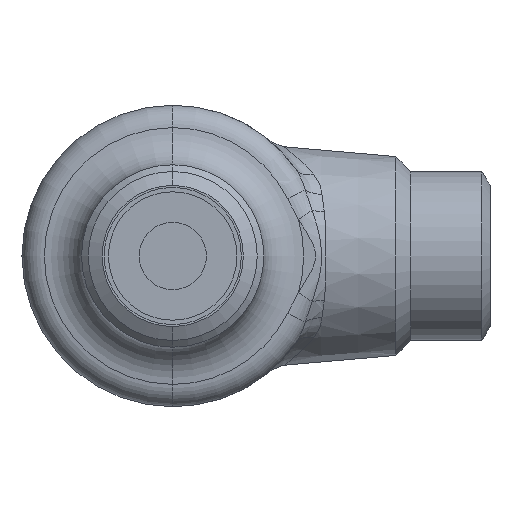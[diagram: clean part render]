
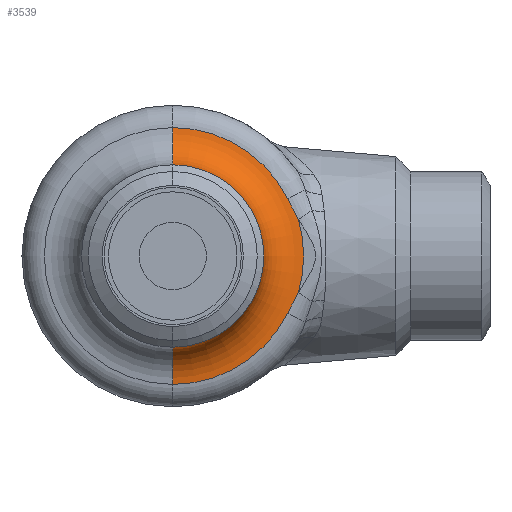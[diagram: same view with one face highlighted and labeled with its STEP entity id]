
A CAD part, front view. The second image highlights one B-rep face of the part: STEP entity #3539.
In plain terms, the highlighted toroidal (fillet/blend) face has major radius 16.5 mm and minor radius 5 mm.
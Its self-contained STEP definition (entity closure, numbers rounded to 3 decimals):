
#35 = EDGE_CURVE ( 'NONE', #893, #4777, #1113, .T. ) ;
#16701 = VERTEX_POINT ( 'NONE', #1847 ) ;
#392 = ORIENTED_EDGE ( 'NONE', *, *, #35, .T. ) ;
#536 = VERTEX_POINT ( 'NONE', #1731 ) ;
#753 = EDGE_CURVE ( 'NONE', #3899, #536, #8795, .T. ) ;
#893 = VERTEX_POINT ( 'NONE', #8918 ) ;
#1113 = B_SPLINE_CURVE_WITH_KNOTS ( 'NONE', 3,
 ( #1114, #1115, #1116, #1117 ),
 .UNSPECIFIED., .F., .F.,
 ( 4, 4 ),
 ( 0., 0.003 ),
 .UNSPECIFIED. ) ;
#1114 = CARTESIAN_POINT ( 'NONE',  ( 14.484, -52.01, -7.229 ) ) ;
#1115 = CARTESIAN_POINT ( 'NONE',  ( 14.925, -52.01, -6.344 ) ) ;
#1116 = CARTESIAN_POINT ( 'NONE',  ( 15.397, -52., -5.474 ) ) ;
#1117 = CARTESIAN_POINT ( 'NONE',  ( 15.848, -52., -4.594 ) ) ;
#1177 = EDGE_CURVE ( 'NONE', #3899, #893, #9077, .T. ) ;
#1248 = EDGE_CURVE ( 'NONE', #8909, #16701, #9118, .T. ) ;
#1731 = CARTESIAN_POINT ( 'NONE',  ( 0., -57., -11.5 ) ) ;
#1847 = CARTESIAN_POINT ( 'NONE',  ( 0., -52.01, 16.187 ) ) ;
#1855 = ORIENTED_EDGE ( 'NONE', *, *, #1177, .T. ) ;
#18248 = ORIENTED_EDGE ( 'NONE', *, *, #8668, .T. ) ;
#18675 = VERTEX_POINT ( 'NONE', #14722 ) ;
#18744 = ORIENTED_EDGE ( 'NONE', *, *, #5214, .F. ) ;
#2801 = ORIENTED_EDGE ( 'NONE', *, *, #753, .F. ) ;
#3214 = EDGE_CURVE ( 'NONE', #536, #18675, #12251, .T. ) ;
#3305 = EDGE_LOOP ( 'NONE', ( #2801, #1855, #392, #18744, #18248, #8009, #7512, #7006 ) ) ;
#3539 = ADVANCED_FACE ( 'NONE', ( #12477 ), #12478, .F. ) ;
#3899 = VERTEX_POINT ( 'NONE', #13092 ) ;
#4777 = VERTEX_POINT ( 'NONE', #14586 ) ;
#5001 = VERTEX_POINT ( 'NONE', #14856 ) ;
#5214 = EDGE_CURVE ( 'NONE', #5001, #4777, #15095, .T. ) ;
#7006 = ORIENTED_EDGE ( 'NONE', *, *, #3214, .F. ) ;
#7512 = ORIENTED_EDGE ( 'NONE', *, *, #8434, .T. ) ;
#8009 = ORIENTED_EDGE ( 'NONE', *, *, #1248, .T. ) ;
#8434 = EDGE_CURVE ( 'NONE', #16701, #18675, #12801, .T. ) ;
#8668 = EDGE_CURVE ( 'NONE', #5001, #8909, #13218, .T. ) ;
#8795 = CIRCLE ( 'NONE', #8796, 5. ) ;
#8796 = AXIS2_PLACEMENT_3D ( 'NONE', #8799, #8800, #8801 ) ;
#8799 = CARTESIAN_POINT ( 'NONE',  ( 0., -57., -16.5 ) ) ;
#8800 = DIRECTION ( 'NONE',  ( 1., 0., 0. ) ) ;
#8801 = DIRECTION ( 'NONE',  ( 0., 0., -1. ) ) ;
#8909 = VERTEX_POINT ( 'NONE', #13787 ) ;
#8918 = CARTESIAN_POINT ( 'NONE',  ( 14.484, -52.01, -7.229 ) ) ;
#9077 = CIRCLE ( 'NONE', #9078, 16.188 ) ;
#9078 = AXIS2_PLACEMENT_3D ( 'NONE', #9079, #9080, #9081 ) ;
#9079 = CARTESIAN_POINT ( 'NONE',  ( 0., -52.01, 0. ) ) ;
#9080 = DIRECTION ( 'NONE',  ( 0., -1., 0. ) ) ;
#9081 = DIRECTION ( 'NONE',  ( 0., 0., -1. ) ) ;
#9118 = CIRCLE ( 'NONE', #9119, 16.188 ) ;
#9119 = AXIS2_PLACEMENT_3D ( 'NONE', #9120, #9121, #9122 ) ;
#9120 = CARTESIAN_POINT ( 'NONE',  ( 0., -52.01, 0. ) ) ;
#9121 = DIRECTION ( 'NONE',  ( 0., -1., 0. ) ) ;
#9122 = DIRECTION ( 'NONE',  ( 0., 0., -1. ) ) ;
#12251 = CIRCLE ( 'NONE', #12252, 11.5 ) ;
#12252 = AXIS2_PLACEMENT_3D ( 'NONE', #12253, #12254, #12255 ) ;
#12253 = CARTESIAN_POINT ( 'NONE',  ( 0., -57., 0. ) ) ;
#12254 = DIRECTION ( 'NONE',  ( 0., -1., 0. ) ) ;
#12255 = DIRECTION ( 'NONE',  ( 0., 0., 1. ) ) ;
#12477 = FACE_OUTER_BOUND ( 'NONE', #3305, .T. ) ;
#12478 = TOROIDAL_SURFACE ( 'NONE', #12479, 16.5, 5. ) ;
#12479 = AXIS2_PLACEMENT_3D ( 'NONE', #12482, #12483, #12484 ) ;
#12482 = CARTESIAN_POINT ( 'NONE',  ( 0., -57., 0. ) ) ;
#12483 = DIRECTION ( 'NONE',  ( 0., 1., 0. ) ) ;
#12484 = DIRECTION ( 'NONE',  ( 0., 0., 1. ) ) ;
#12801 = CIRCLE ( 'NONE', #12802, 5. ) ;
#12802 = AXIS2_PLACEMENT_3D ( 'NONE', #12803, #12804, #12805 ) ;
#12803 = CARTESIAN_POINT ( 'NONE',  ( 0., -57., 16.5 ) ) ;
#12804 = DIRECTION ( 'NONE',  ( -1., 0., 0. ) ) ;
#12805 = DIRECTION ( 'NONE',  ( 0., 0., 1. ) ) ;
#13092 = CARTESIAN_POINT ( 'NONE',  ( 0., -52.01, -16.187 ) ) ;
#13218 = B_SPLINE_CURVE_WITH_KNOTS ( 'NONE', 3,
 ( #13219, #13220, #13221, #13222 ),
 .UNSPECIFIED., .F., .F.,
 ( 4, 4 ),
 ( 0.013, 0.016 ),
 .UNSPECIFIED. ) ;
#13219 = CARTESIAN_POINT ( 'NONE',  ( 15.848, -52., 4.594 ) ) ;
#13220 = CARTESIAN_POINT ( 'NONE',  ( 15.397, -52., 5.474 ) ) ;
#13221 = CARTESIAN_POINT ( 'NONE',  ( 14.925, -52.01, 6.344 ) ) ;
#13222 = CARTESIAN_POINT ( 'NONE',  ( 14.484, -52.01, 7.229 ) ) ;
#13787 = CARTESIAN_POINT ( 'NONE',  ( 14.484, -52.01, 7.229 ) ) ;
#14586 = CARTESIAN_POINT ( 'NONE',  ( 15.848, -52., -4.594 ) ) ;
#14722 = CARTESIAN_POINT ( 'NONE',  ( 0., -57., 11.5 ) ) ;
#14856 = CARTESIAN_POINT ( 'NONE',  ( 15.848, -52., 4.594 ) ) ;
#15095 = CIRCLE ( 'NONE', #15096, 16.5 ) ;
#15096 = AXIS2_PLACEMENT_3D ( 'NONE', #15097, #15098, #15099 ) ;
#15097 = CARTESIAN_POINT ( 'NONE',  ( 0., -52., 0. ) ) ;
#15098 = DIRECTION ( 'NONE',  ( 0., 1., 0. ) ) ;
#15099 = DIRECTION ( 'NONE',  ( 0., 0., 1. ) ) ;
